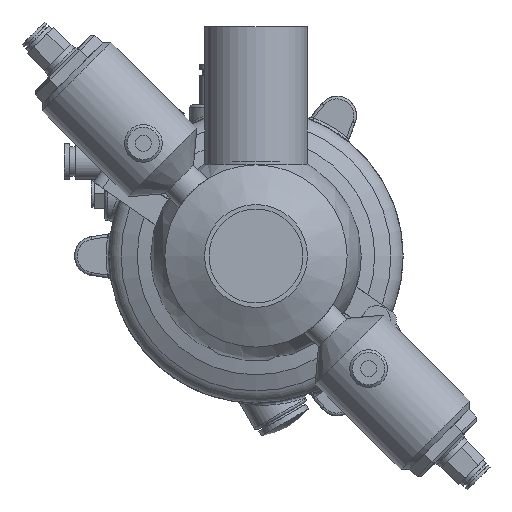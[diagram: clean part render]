
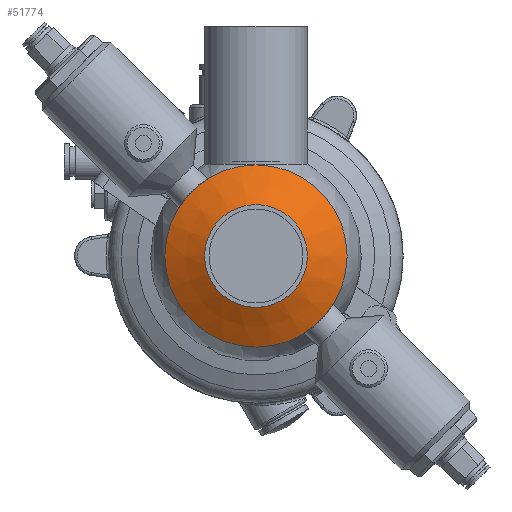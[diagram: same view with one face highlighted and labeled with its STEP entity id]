
A CAD part, front view. The second image highlights one B-rep face of the part: STEP entity #51774.
In plain terms, the highlighted conical face has half-angle 60 degrees and reference radius 33.75 mm.
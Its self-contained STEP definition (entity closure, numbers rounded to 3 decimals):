
#1365 = CARTESIAN_POINT ( 'NONE',  ( 0., -48.487, 0. ) ) ;
#1845 = CARTESIAN_POINT ( 'NONE',  ( 0., -40., 0. ) ) ;
#4133 = AXIS2_PLACEMENT_3D ( 'NONE', #1365, #48483, #15236 ) ;
#4744 = CARTESIAN_POINT ( 'NONE',  ( 0., -48.487, 19.05 ) ) ;
#6053 = DIRECTION ( 'NONE',  ( 0., 0., 1. ) ) ;
#9149 = EDGE_CURVE ( 'NONE', #29032, #29032, #11161, .T. ) ;
#11161 = CIRCLE ( 'NONE', #4133, 19.05 ) ;
#15236 = DIRECTION ( 'NONE',  ( 0., 0., 1. ) ) ;
#18423 = EDGE_CURVE ( 'NONE', #45452, #45452, #37601, .T. ) ;
#21029 = ORIENTED_EDGE ( 'NONE', *, *, #9149, .T. ) ;
#24338 = EDGE_LOOP ( 'NONE', ( #33156 ) ) ;
#27541 = AXIS2_PLACEMENT_3D ( 'NONE', #53445, #34178, #6053 ) ;
#29032 = VERTEX_POINT ( 'NONE', #4744 ) ;
#29177 = DIRECTION ( 'NONE',  ( 0., 0., 1. ) ) ;
#33156 = ORIENTED_EDGE ( 'NONE', *, *, #18423, .F. ) ;
#33617 = DIRECTION ( 'NONE',  ( 0., 1., 0. ) ) ;
#34178 = DIRECTION ( 'NONE',  ( 0., 1., 0. ) ) ;
#37601 = CIRCLE ( 'NONE', #27541, 33.75 ) ;
#38121 = CONICAL_SURFACE ( 'NONE', #44186, 33.75, 1.047 ) ;
#44186 = AXIS2_PLACEMENT_3D ( 'NONE', #1845, #33617, #29177 ) ;
#45452 = VERTEX_POINT ( 'NONE', #55806 ) ;
#48483 = DIRECTION ( 'NONE',  ( 0., 1., 0. ) ) ;
#50582 = EDGE_LOOP ( 'NONE', ( #21029 ) ) ;
#51774 = ADVANCED_FACE ( 'NONE', ( #60200, #56976 ), #38121, .T. ) ;
#53445 = CARTESIAN_POINT ( 'NONE',  ( 0., -40., 0. ) ) ;
#55806 = CARTESIAN_POINT ( 'NONE',  ( 0., -40., 33.75 ) ) ;
#56976 = FACE_OUTER_BOUND ( 'NONE', #24338, .T. ) ;
#60200 = FACE_BOUND ( 'NONE', #50582, .T. ) ;
